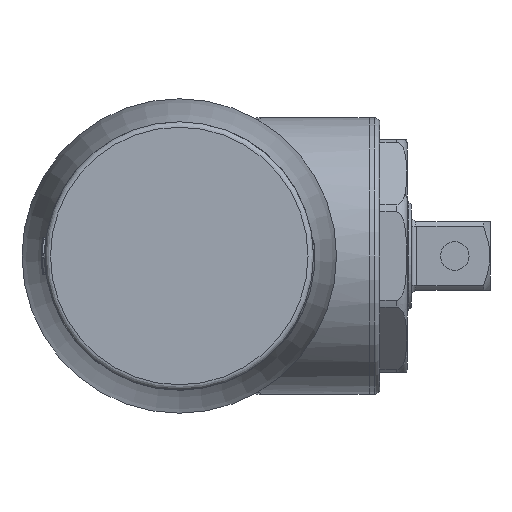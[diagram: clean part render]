
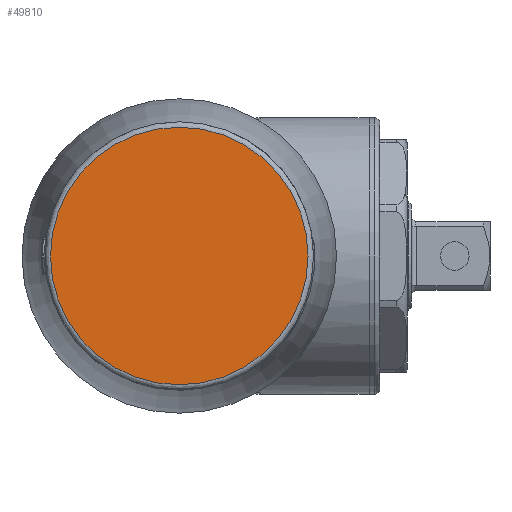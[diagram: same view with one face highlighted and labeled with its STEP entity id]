
A CAD part, left-side view. The second image highlights one B-rep face of the part: STEP entity #49810.
In plain terms, the highlighted planar face has unit normal (-1, 0, 0).
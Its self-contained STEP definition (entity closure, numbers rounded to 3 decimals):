
#2146 = CARTESIAN_POINT ( 'NONE',  ( -549.455, 0., 23.75 ) ) ;
#8553 = PLANE ( 'NONE',  #17822 ) ;
#13234 = DIRECTION ( 'NONE',  ( 0., 0., 1. ) ) ;
#13294 = DIRECTION ( 'NONE',  ( -1., 0., 0. ) ) ;
#13365 = CARTESIAN_POINT ( 'NONE',  ( -549.455, 0., 0. ) ) ;
#16658 = FACE_OUTER_BOUND ( 'NONE', #46130, .T. ) ;
#17398 = ORIENTED_EDGE ( 'NONE', *, *, #42290, .T. ) ;
#17822 = AXIS2_PLACEMENT_3D ( 'NONE', #13365, #13294, #13234 ) ;
#28216 = CARTESIAN_POINT ( 'NONE',  ( -549.455, 0., 0. ) ) ;
#32447 = DIRECTION ( 'NONE',  ( 0., 0., 1. ) ) ;
#38646 = AXIS2_PLACEMENT_3D ( 'NONE', #28216, #52685, #32447 ) ;
#42290 = EDGE_CURVE ( 'NONE', #51798, #51798, #46236, .T. ) ;
#46130 = EDGE_LOOP ( 'NONE', ( #17398 ) ) ;
#46236 = CIRCLE ( 'NONE', #38646, 23.75 ) ;
#49810 = ADVANCED_FACE ( 'NONE', ( #16658 ), #8553, .T. ) ;
#51798 = VERTEX_POINT ( 'NONE', #2146 ) ;
#52685 = DIRECTION ( 'NONE',  ( -1., 0., 0. ) ) ;
